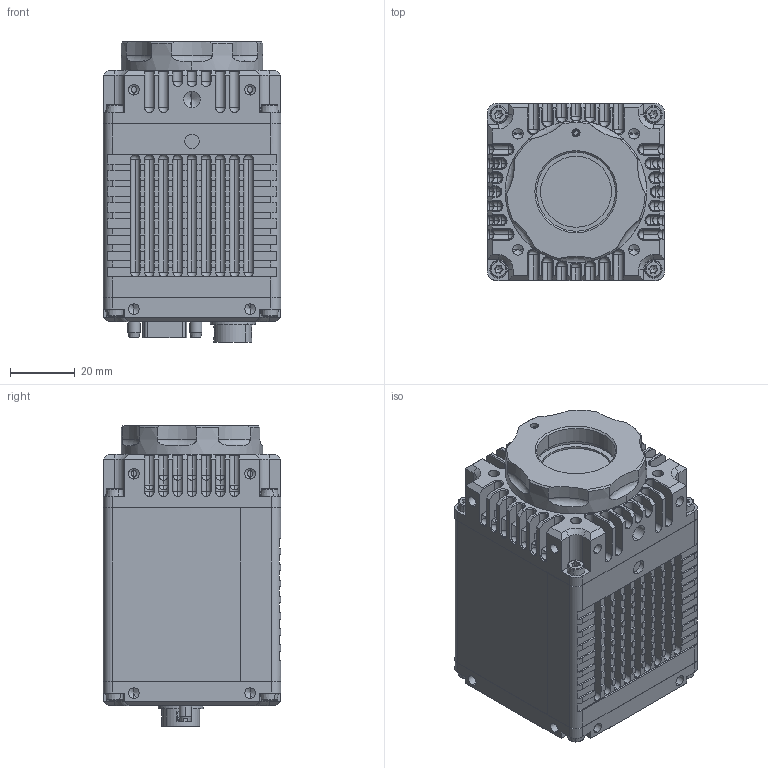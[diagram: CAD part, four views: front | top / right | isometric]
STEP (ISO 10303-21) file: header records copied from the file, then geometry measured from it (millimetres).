
FILE_DESCRIPTION (( 'STEP AP214' ), '1' );
FILE_NAME ('4168000_Goldeye CL-032 SWIR TEC1 (C-Mount Chunghwa 640x512).STEP', '2023-07-24T14:17:41', ( '' ), ( '' ), 'SwSTEP 2.0', 'SolidWorks 2021', '' );
FILE_SCHEMA (( 'AUTOMOTIVE_DESIGN' ));
Length unit declared in the file: millimetre
Products named in the file (1): 4168000_Goldeye CL-032 SWIR TEC1 (C-Mount Chunghwa 640x512)
Bounding box: 55.01 x 55 x 93.17 mm (x, y, z)
Surface area: 80393.8 mm2 (no closed solid volume)
Topology: 0 solids, 45 shells, 3057 faces, 8092 edges, 5093 vertices
Faces by surface type: plane 1350, cylinder 947, bspline 297, cone 293, sphere 98, torus 72
Entity records: 135971 total; most frequent: CARTESIAN_POINT 28402, ORIENTED_EDGE 15452, DIRECTION 14633, EDGE_CURVE 7876, VERTEX_POINT 5079, AXIS2_PLACEMENT_3D 4914, VECTOR 4805, LINE 4805
